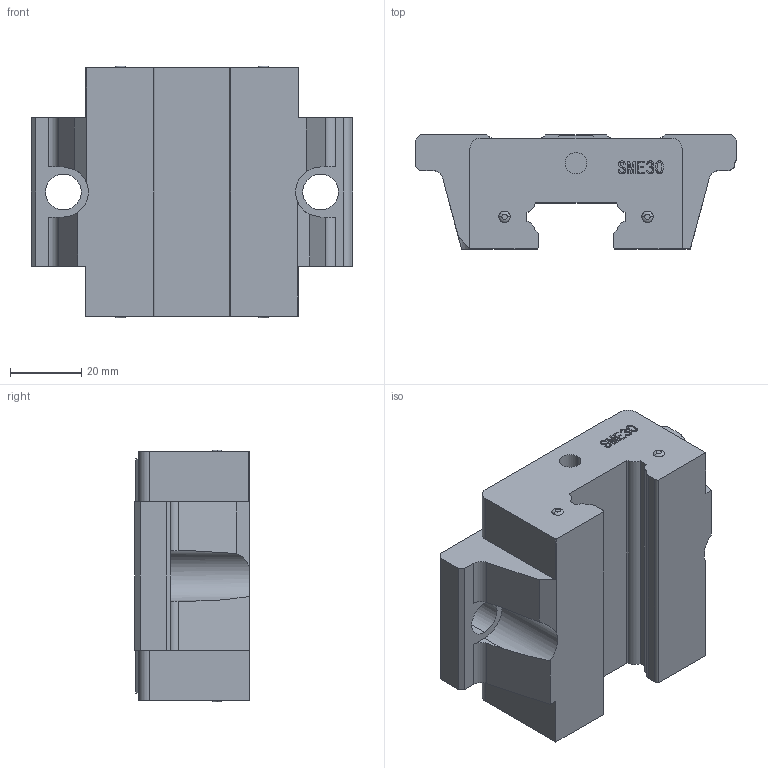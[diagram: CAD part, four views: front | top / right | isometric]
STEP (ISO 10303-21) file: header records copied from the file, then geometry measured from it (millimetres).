
FILE_DESCRIPTION (( 'STEP AP203' ), '1' );
FILE_NAME ('SME30AS.stp', '2019-09-20T10:33:52', ( 'pgos' ), ( '' ), 'SwSTEP 2.0', 'SolidWorks 2014', '' );
FILE_SCHEMA (( 'CONFIG_CONTROL_DESIGN' ));
Length unit declared in the file: millimetre
Products named in the file (1): SME30AS
Bounding box: 90 x 32 x 70.5 mm (x, y, z)
Volume: 125279.2 mm3; surface area: 22081 mm2
Topology: 1 solids, 1 shells, 175 faces, 490 edges, 332 vertices
Faces by surface type: plane 107, cylinder 40, bspline 20, torus 8
Entity records: 7721 total; most frequent: CARTESIAN_POINT 3156, ORIENTED_EDGE 980, DIRECTION 860, EDGE_CURVE 490, VECTOR 340, LINE 340, VERTEX_POINT 332, AXIS2_PLACEMENT_3D 260
